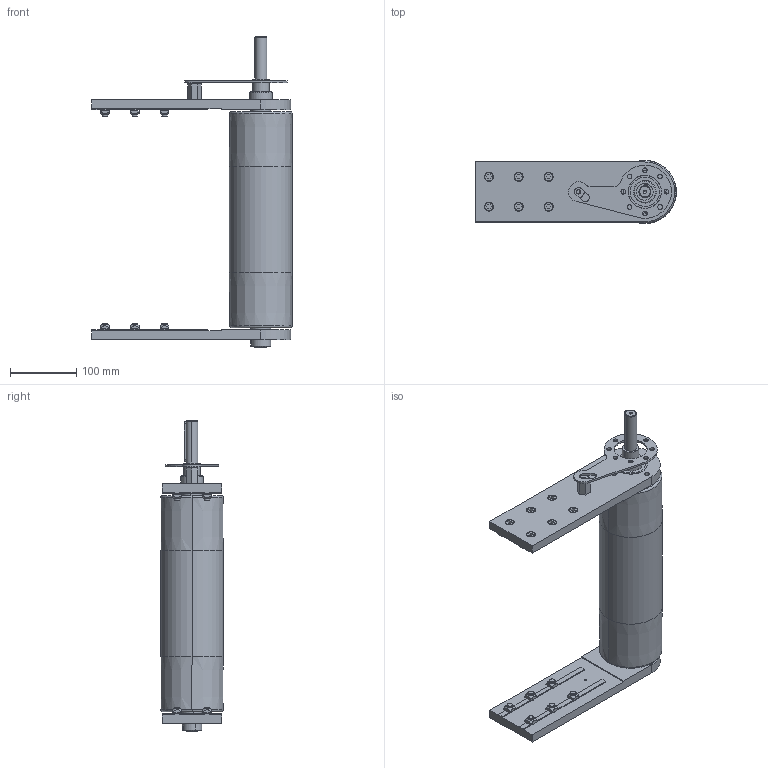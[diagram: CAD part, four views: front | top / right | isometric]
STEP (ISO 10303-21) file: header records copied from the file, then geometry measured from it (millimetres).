
FILE_DESCRIPTION (( 'STEP AP203' ), '1' );
FILE_NAME ('084.095.KD.44.300.STEP', '2013-05-28T06:12:44', ( '' ), ( '' ), 'SwSTEP 2.0', 'SolidWorks 2011', '' );
FILE_SCHEMA (( 'CONFIG_CONTROL_DESIGN' ));
Length unit declared in the file: millimetre
Products named in the file (15): 084.095.KD.44.300; CHIAVETTE_A 6x6x60 UNI 6604-69; Circlip DIN 471 - 30 x 1.5_Circlip DIN 471 - 30 x 1.5; 084.802.019_084.802.019; 084.810.003; 084.808.002_084.808.002; 084.808.003_084.808.003; 084.812.003; 084.816.102_084.816.107<A macchina>; 084.302.000 DADI ALUSIC 13x13_084.302.004; 084.301.000 VITI ALUSIC_084.301.003; 084.802.034_084.802.034; 084.812.001; 084.807.005; 084.802.027
Assembly tree (38 placements, depth 2):
  084.095.KD.44.300
    084.302.000 DADI ALUSIC 13x13_084.302.004  x12
    084.301.000 VITI ALUSIC_084.301.003  x12
    CHIAVETTE_A 6x6x60 UNI 6604-69
    084.808.003_084.808.003
    084.816.102_084.816.107<A macchina>
    084.802.034_084.802.034
    084.807.005
    084.802.019_084.802.019
    Circlip DIN 471 - 30 x 1.5_Circlip DIN 471 - 30 x 1.5  x2
    084.808.002_084.808.002
    084.812.001
    084.810.003  x2
    084.802.027
    084.812.003
Bounding box: 302.5 x 95 x 468.5 mm (x, y, z)
Volume: 1547274.5 mm3; surface area: 583911.9 mm2
Topology: 43 solids, 44 shells, 900 faces, 2218 edges, 1440 vertices
Faces by surface type: plane 397, cylinder 339, torus 92, cone 63, sphere 9
Entity records: 19361 total; most frequent: CARTESIAN_POINT 3371, DIRECTION 3144, ORIENTED_EDGE 2716, EDGE_CURVE 1358, AXIS2_PLACEMENT_3D 1262, VERTEX_POINT 885, CIRCLE 691, EDGE_LOOP 649
